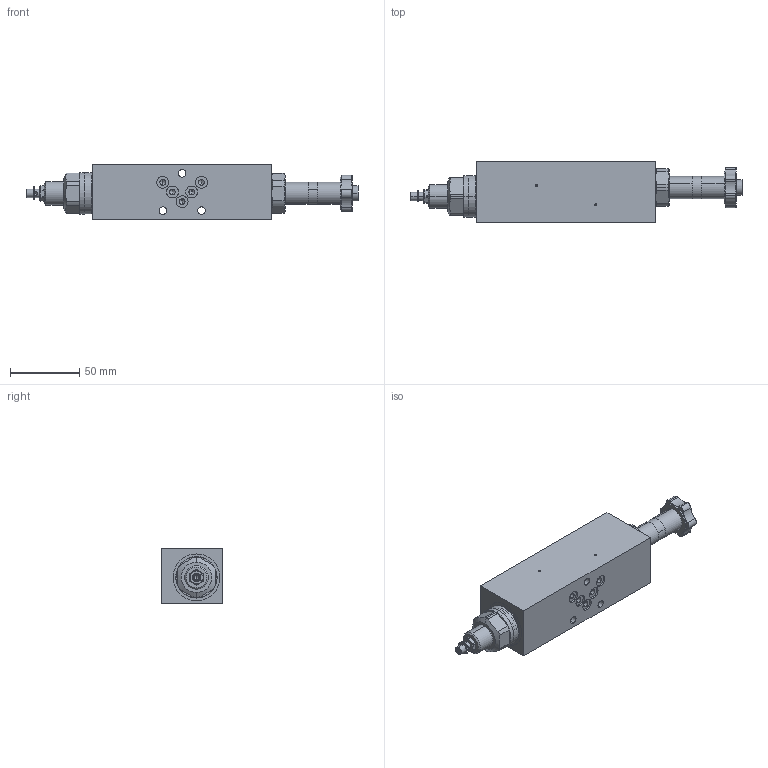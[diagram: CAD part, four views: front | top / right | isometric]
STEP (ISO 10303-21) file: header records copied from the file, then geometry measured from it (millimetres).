
FILE_DESCRIPTION (( 'STEP AP214' ), '1' );
FILE_NAME ('VQSSA04-P.STEP', '2018-08-28T13:35:50', ( '' ), ( '' ), 'SwSTEP 2.0', 'SolidWorks 2016', '' );
FILE_SCHEMA (( 'AUTOMOTIVE_DESIGN' ));
Length unit declared in the file: millimetre
Products named in the file (2): VQSSA04-P
Bounding box: 240.5 x 44.5 x 40 mm (x, y, z)
Volume: 261064.5 mm3; surface area: 40812.8 mm2
Topology: 5 solids, 8 shells, 354 faces, 845 edges, 512 vertices
Faces by surface type: cylinder 150, plane 99, cone 75, torus 30
Entity records: 14466 total; most frequent: CARTESIAN_POINT 2323, DIRECTION 1866, ORIENTED_EDGE 1634, EDGE_CURVE 817, AXIS2_PLACEMENT_3D 770, VERTEX_POINT 512, CIRCLE 414, EDGE_LOOP 401
